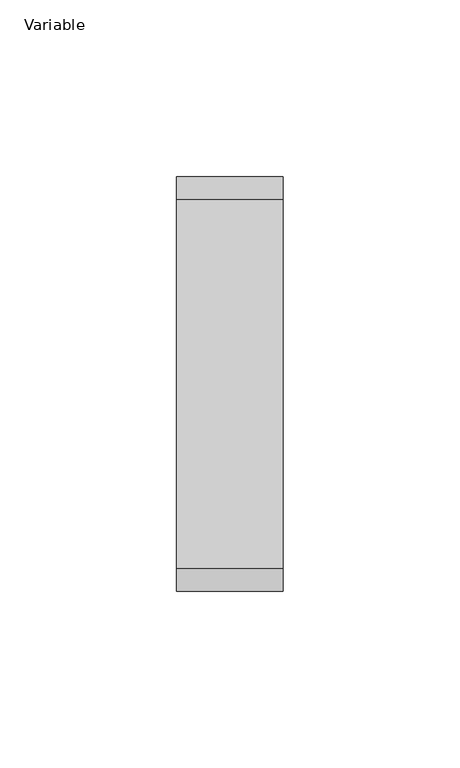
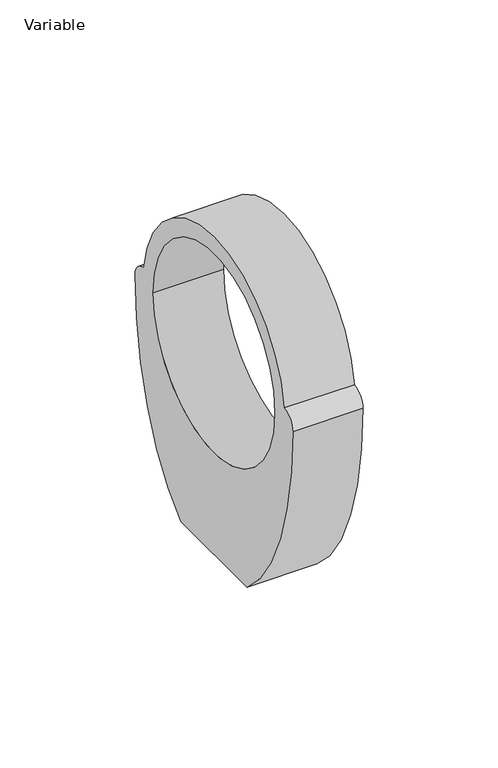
"""IFC4 building model written with IfcOpenShell, lengths in millimetres: valve geometry, AliaxisFR_Friaphon_PhonoklipBracket_FR : Variable."""

from ifc_helpers import new_model, si_unit, point, frame, origin, place, context, project, spatial, polyline, circle_curve, ellipse_curve, trimmed, source, transform, mapped, element, save
from ifc_brep_helpers import plane_surface, cylinder_surface, revolved_surface, extruded_surface, advanced_brep


def variable_3c150e15(model_context):
    return source(origin(), model_context, "Body", "AdvancedBrep", [
        advanced_brep(
        [(15.0, 24.3709707, -91.0), (15.0, 58.5, 0.0), (15.0, 52.0652174, 6.7426358), (15.0, -52.0652174, 6.7426358), (15.0, -58.5, 0.0), (15.0, -24.3709707, -91.0), (15.0, -45.0, 0.0), (15.0, 45.0, 0.0), (-15.0, -24.3709707, -91.0), (-15.0, -58.5, 0.0), (-15.0, -52.0652174, 6.7426358), (-15.0, 52.0652174, 6.7426358), (-15.0, 58.5, 0.0), (-15.0, 24.3709707, -91.0), (-15.0, -45.0, 0.0), (-15.0, 45.0, 0.0)],
        [
            (0, 1, ellipse_curve(frame((15.0, 0.0, 0.0), z_axis=(1.0, 0.0, 0.0), x_axis=(0.0, 0.0, 1.0)), 100.1, 58.5)),
            (1, 2, circle_curve(frame((15.0, 51.75, 0.0), z_axis=(1.0, 0.0, 0.0), x_axis=(0.0, 1.0, 0.0)), 6.75)),
            (2, 3, circle_curve(frame((15.0, 0.0, 0.0), z_axis=(1.0, 0.0, 0.0), x_axis=(0.0, 1.0, 0.0)), 52.5)),
            (3, 4, circle_curve(frame((15.0, -51.75, 0.0), z_axis=(1.0, 0.0, 0.0), x_axis=(0.0, 1.0, 0.0)), 6.75)),
            (4, 5, ellipse_curve(frame((15.0, 0.0, 0.0), z_axis=(1.0, 0.0, 0.0), x_axis=(0.0, 0.0, 1.0)), 100.1, 58.5)),
            (5, 0),
            (6, 7, circle_curve(frame((15.0, 0.0, 0.0), z_axis=(-1.0, 0.0, 0.0), x_axis=(0.0, 1.0, 0.0)), 45.0)),
            (7, 6, circle_curve(frame((15.0, 0.0, 0.0), z_axis=(-1.0, 0.0, 0.0), x_axis=(0.0, 1.0, 0.0)), 45.0)),
            (8, 9, ellipse_curve(frame((-15.0, 0.0, 0.0), z_axis=(-1.0, 0.0, 0.0), x_axis=(0.0, 0.0, 1.0)), 100.1, 58.5)),
            (9, 10, circle_curve(frame((-15.0, -51.75, 0.0), z_axis=(-1.0, 0.0, 0.0), x_axis=(0.0, 1.0, 0.0)), 6.75)),
            (10, 11, circle_curve(frame((-15.0, 0.0, 0.0), z_axis=(-1.0, 0.0, 0.0), x_axis=(0.0, 1.0, 0.0)), 52.5)),
            (11, 12, circle_curve(frame((-15.0, 51.75, 0.0), z_axis=(-1.0, 0.0, 0.0), x_axis=(0.0, 1.0, 0.0)), 6.75)),
            (12, 13, ellipse_curve(frame((-15.0, 0.0, 0.0), z_axis=(-1.0, 0.0, 0.0), x_axis=(0.0, 0.0, 1.0)), 100.1, 58.5)),
            (13, 8),
            (14, 15, circle_curve(frame((-15.0, 0.0, 0.0), z_axis=(1.0, 0.0, 0.0), x_axis=(0.0, 1.0, 0.0)), 45.0)),
            (15, 14, circle_curve(frame((-15.0, 0.0, 0.0), z_axis=(1.0, 0.0, 0.0), x_axis=(0.0, 1.0, 0.0)), 45.0)),
            (0, 13),
            (12, 1),
            (4, 9),
            (8, 5),
            (6, 14),
            (15, 7),
            (2, 11),
            (10, 3),
        ],
        [
            plane_surface(frame((15.0, 52.5, 0.0), z_axis=(1.0, 0.0, 0.0), x_axis=(0.0, 0.0, -1.0))),
            plane_surface(frame((-15.0, 52.5, 0.0), z_axis=(-1.0, 0.0, 0.0), x_axis=(0.0, 0.0, 1.0))),
            extruded_surface(trimmed(ellipse_curve(frame((-30.0, 0.0, 0.0), z_axis=(1.0, 0.0, 0.0), x_axis=(0.0, 0.0, 1.0)), 100.1, 58.5), [point((-30.0, 0.0, -100.1))], [point((-30.0, 0.0, 100.1))], True, "CARTESIAN"), (30.0, 0.0, 0.0), 30.0),
            extruded_surface(trimmed(ellipse_curve(frame((-30.0, 0.0, 0.0), z_axis=(1.0, 0.0, 0.0), x_axis=(0.0, 0.0, 1.0)), 100.1, 58.5), [point((-30.0, 0.0, 100.1))], [point((-30.0, 0.0, -100.1))], True, "CARTESIAN"), (30.0, 0.0, 0.0), 30.0),
            plane_surface(frame((15.0, 58.5, -91.0), z_axis=(0.0, 0.0, -1.0), x_axis=(-1.0, 0.0, 0.0))),
            revolved_surface(polyline([(-15.0, 45.0, 0.0), (15.0, 45.0, 0.0)]), (-15.0, 0.0, 0.0), (-1.0, 0.0, 0.0)),
            cylinder_surface(frame((0.0, 0.0, 0.0), z_axis=(1.0, 0.0, 0.0), x_axis=(0.0, 1.0, 0.0)), 52.5),
            cylinder_surface(frame((-15.0, 51.75, 0.0), z_axis=(1.0, 0.0, 0.0), x_axis=(0.0, 1.0, 0.0)), 6.75),
            cylinder_surface(frame((0.0, -51.75, 0.0), z_axis=(1.0, 0.0, 0.0), x_axis=(0.0, 1.0, 0.0)), 6.75),
        ],
        [
            (0, [[1, 2, 3, 4, 5, 6], [7, 8]]),
            (1, [[9, 10, 11, 12, 13, 14], [15, 16]]),
            (2, [[-1, 17, -13, 18]]),
            (3, [[-5, 19, -9, 20]]),
            (4, [[-6, -20, -14, -17]]),
            (5, [[-7, 21, -16, 22]]),
            (5, [[-8, -22, -15, -21]]),
            (6, [[-3, 23, -11, 24]]),
            (7, [[-2, -18, -12, -23]]),
            (8, [[-4, -24, -10, -19]]),
        ],
    ),
    ])


if __name__ == "__main__":
    model = new_model("IFC4")
    model_context = context("Model", 3, world=origin())
    ifc_project = project(units=[si_unit("LENGTHUNIT", "METRE", prefix="MILLI")], contexts=[model_context])
    site = spatial("IfcSite", under=ifc_project)
    building = spatial("IfcBuilding", under=site)
    placement = place(None, origin())
    variable_shape = variable_3c150e15(model_context)
    element("IfcValve", 1, ObjectType="AliaxisFR_Friaphon_PhonoklipBracket_FR : Variable", at=placement, inside=building, context=model_context, shape_type="MappedRepresentation", body=[
        mapped(variable_shape, transform((0.0, 0.0, 0.0), x_axis=(1.0, 0.0, 0.0), y_axis=(0.0, 1.0, 0.0), z_axis=(0.0, 0.0, 1.0))),
    ])
    save(model, "model.ifc")
